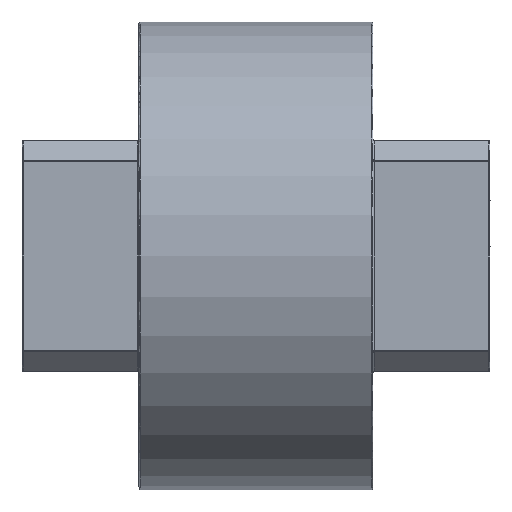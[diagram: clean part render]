
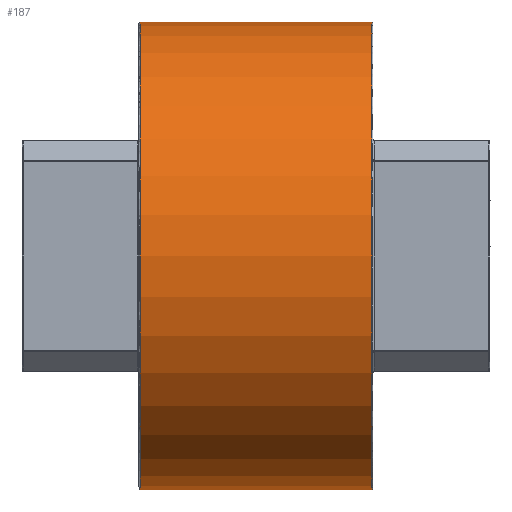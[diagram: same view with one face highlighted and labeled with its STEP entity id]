
A CAD part, left-side view. The second image highlights one B-rep face of the part: STEP entity #187.
In plain terms, the highlighted cylindrical face has radius 8 mm (diameter 16 mm), a partial arc.
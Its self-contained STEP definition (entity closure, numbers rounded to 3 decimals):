
#41 = DIRECTION ( 'NONE',  ( 0., 0., 1. ) ) ;
#42 = DIRECTION ( 'NONE',  ( 0., 1., 0. ) ) ;
#43 = CARTESIAN_POINT ( 'NONE',  ( 566.622, -353.142, 421.646 ) ) ;
#44 = AXIS2_PLACEMENT_3D ( 'NONE', #43, #42, #41 ) ;
#63 = FACE_OUTER_BOUND ( 'NONE', #188, .T. ) ;
#72 = CIRCLE ( 'NONE', #88, 8. ) ;
#78 = CYLINDRICAL_SURFACE ( 'NONE', #44, 8. ) ;
#79 = DIRECTION ( 'NONE',  ( 0., 0., 1. ) ) ;
#80 = DIRECTION ( 'NONE',  ( 0., -1., 0. ) ) ;
#81 = CARTESIAN_POINT ( 'NONE',  ( 566.622, -349.192, 421.646 ) ) ;
#82 = AXIS2_PLACEMENT_3D ( 'NONE', #81, #80, #79 ) ;
#84 = CIRCLE ( 'NONE', #82, 8. ) ;
#85 = DIRECTION ( 'NONE',  ( 0., 0., 1. ) ) ;
#86 = DIRECTION ( 'NONE',  ( 0., 1., 0. ) ) ;
#87 = CARTESIAN_POINT ( 'NONE',  ( 566.622, -357.092, 421.646 ) ) ;
#88 = AXIS2_PLACEMENT_3D ( 'NONE', #87, #86, #85 ) ;
#175 = EDGE_CURVE ( 'NONE', #3453, #3409, #72, .T. ) ;
#185 = EDGE_CURVE ( 'NONE', #3386, #3503, #84, .T. ) ;
#187 = ADVANCED_FACE ( 'NONE', ( #63 ), #78, .T. ) ;
#188 = EDGE_LOOP ( 'NONE', ( #189, #190, #191, #192, #193 ) ) ;
#189 = ORIENTED_EDGE ( 'NONE', *, *, #3374, .F. ) ;
#190 = ORIENTED_EDGE ( 'NONE', *, *, #175, .T. ) ;
#191 = ORIENTED_EDGE ( 'NONE', *, *, #3381, .T. ) ;
#192 = ORIENTED_EDGE ( 'NONE', *, *, #185, .T. ) ;
#193 = ORIENTED_EDGE ( 'NONE', *, *, #3502, .T. ) ;
#677 = CARTESIAN_POINT ( 'NONE',  ( 566.622, -357.092, 429.646 ) ) ;
#788 = CARTESIAN_POINT ( 'NONE',  ( 566.622, -357.092, 413.646 ) ) ;
#936 = CARTESIAN_POINT ( 'NONE',  ( 558.622, -349.192, 421.646 ) ) ;
#960 = DIRECTION ( 'NONE',  ( 0., 0., 1. ) ) ;
#961 = DIRECTION ( 'NONE',  ( 0., -1., 0. ) ) ;
#962 = CARTESIAN_POINT ( 'NONE',  ( 566.622, -349.192, 421.646 ) ) ;
#963 = AXIS2_PLACEMENT_3D ( 'NONE', #962, #961, #960 ) ;
#964 = CIRCLE ( 'NONE', #963, 8. ) ;
#1001 = CARTESIAN_POINT ( 'NONE',  ( 566.622, -349.192, 413.646 ) ) ;
#2973 = DIRECTION ( 'NONE',  ( 0., 1., 0. ) ) ;
#2974 = VECTOR ( 'NONE', #2973, 1000. ) ;
#2975 = CARTESIAN_POINT ( 'NONE',  ( 566.622, -353.142, 413.646 ) ) ;
#2976 = LINE ( 'NONE', #2975, #2974 ) ;
#3124 = CARTESIAN_POINT ( 'NONE',  ( 566.622, -349.192, 429.646 ) ) ;
#3130 = DIRECTION ( 'NONE',  ( 0., 1., 0. ) ) ;
#3131 = VECTOR ( 'NONE', #3130, 1000. ) ;
#3132 = CARTESIAN_POINT ( 'NONE',  ( 566.622, -353.142, 429.646 ) ) ;
#3133 = LINE ( 'NONE', #3132, #3131 ) ;
#3374 = EDGE_CURVE ( 'NONE', #3453, #3491, #2976, .T. ) ;
#3381 = EDGE_CURVE ( 'NONE', #3409, #3386, #3133, .T. ) ;
#3386 = VERTEX_POINT ( 'NONE', #3124 ) ;
#3409 = VERTEX_POINT ( 'NONE', #677 ) ;
#3453 = VERTEX_POINT ( 'NONE', #788 ) ;
#3491 = VERTEX_POINT ( 'NONE', #1001 ) ;
#3502 = EDGE_CURVE ( 'NONE', #3503, #3491, #964, .T. ) ;
#3503 = VERTEX_POINT ( 'NONE', #936 ) ;
